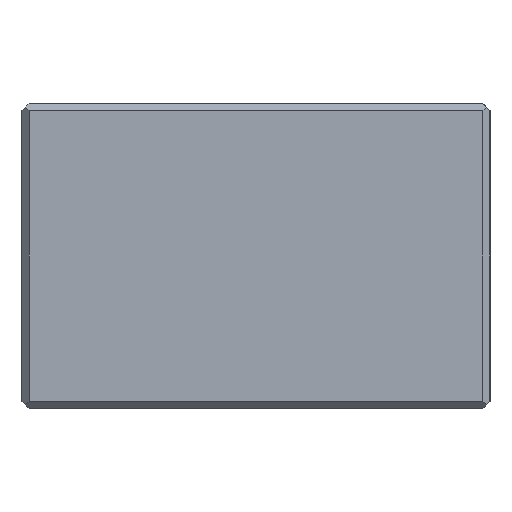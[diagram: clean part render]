
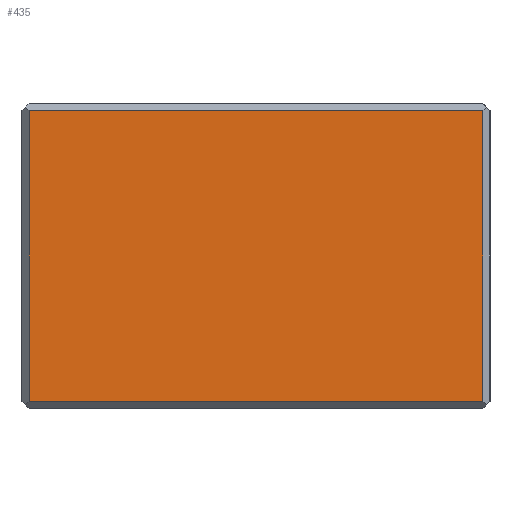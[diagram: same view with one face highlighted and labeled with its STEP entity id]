
A CAD part, left-side view. The second image highlights one B-rep face of the part: STEP entity #435.
In plain terms, the highlighted planar face has unit normal (-1, 0, 0).
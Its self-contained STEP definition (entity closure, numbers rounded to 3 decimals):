
#108=ORIENTED_EDGE('',*,*,#152,.T.);
#109=ORIENTED_EDGE('',*,*,#183,.F.);
#110=ORIENTED_EDGE('',*,*,#195,.F.);
#111=ORIENTED_EDGE('',*,*,#164,.T.);
#152=EDGE_CURVE('',#204,#207,#248,.T.);
#164=EDGE_CURVE('',#217,#204,#260,.T.);
#183=EDGE_CURVE('',#231,#207,#275,.T.);
#195=EDGE_CURVE('',#217,#231,#283,.T.);
#204=VERTEX_POINT('',#609);
#207=VERTEX_POINT('',#615);
#217=VERTEX_POINT('',#641);
#231=VERTEX_POINT('',#676);
#248=LINE('',#616,#296);
#260=LINE('',#640,#308);
#275=LINE('',#677,#323);
#283=LINE('',#700,#331);
#296=VECTOR('',#501,1000.);
#308=VECTOR('',#519,1000.);
#323=VECTOR('',#548,1000.);
#331=VECTOR('',#570,1000.);
#357=EDGE_LOOP('',(#108,#109,#110,#111));
#391=FACE_BOUND('',#357,.T.);
#417=PLANE('',#478);
#435=ADVANCED_FACE('',(#391),#417,.F.);
#478=AXIS2_PLACEMENT_3D('',#707,#579,#580);
#501=DIRECTION('',(0.,-1.,0.));
#519=DIRECTION('',(0.,0.,-1.));
#548=DIRECTION('',(0.,0.,-1.));
#570=DIRECTION('',(0.,-1.,0.));
#579=DIRECTION('',(1.,0.,0.));
#580=DIRECTION('',(0.,0.,-1.));
#609=CARTESIAN_POINT('',(-148.,65.,-20.5));
#615=CARTESIAN_POINT('',(-148.,1.,-20.5));
#616=CARTESIAN_POINT('',(-148.,66.,-20.5));
#640=CARTESIAN_POINT('',(-148.,65.,21.5));
#641=CARTESIAN_POINT('',(-148.,65.,20.5));
#676=CARTESIAN_POINT('',(-148.,1.,20.5));
#677=CARTESIAN_POINT('',(-148.,1.,21.5));
#700=CARTESIAN_POINT('',(-148.,66.,20.5));
#707=CARTESIAN_POINT('',(-148.,65.,21.5));
